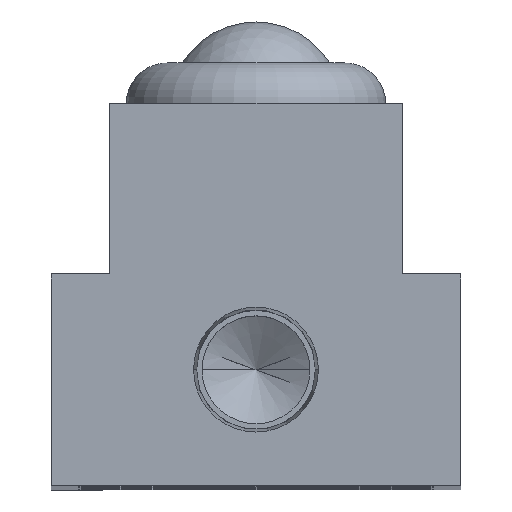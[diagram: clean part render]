
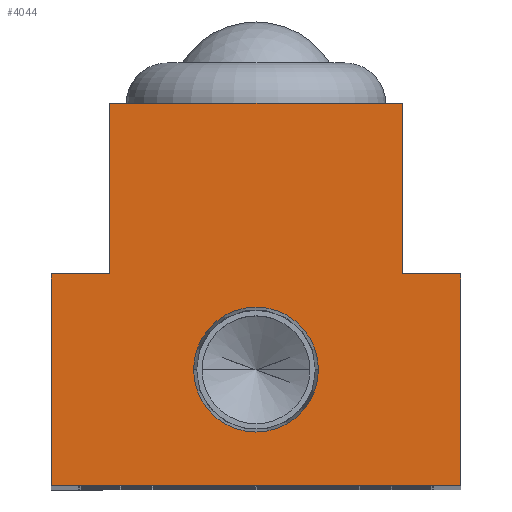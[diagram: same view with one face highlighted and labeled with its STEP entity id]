
A CAD part, top view. The second image highlights one B-rep face of the part: STEP entity #4044.
In plain terms, the highlighted planar face has unit normal (0, 0, 1).
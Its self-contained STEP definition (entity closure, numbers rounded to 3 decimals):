
#16 = DIRECTION ( 'NONE',  ( 1., 0., 0. ) ) ;
#48 = FACE_BOUND ( 'NONE', #275, .T. ) ;
#67 = CARTESIAN_POINT ( 'NONE',  ( -10.7, 28., 0. ) ) ;
#89 = VERTEX_POINT ( 'NONE', #1300 ) ;
#129 = ORIENTED_EDGE ( 'NONE', *, *, #2936, .F. ) ;
#216 = ORIENTED_EDGE ( 'NONE', *, *, #4606, .T. ) ;
#234 = ORIENTED_EDGE ( 'NONE', *, *, #4641, .T. ) ;
#275 = EDGE_LOOP ( 'NONE', ( #4810, #129 ) ) ;
#312 = ORIENTED_EDGE ( 'NONE', *, *, #1543, .T. ) ;
#345 = VECTOR ( 'NONE', #2649, 1000. ) ;
#363 = DIRECTION ( 'NONE',  ( 0., 1., 0. ) ) ;
#367 = ORIENTED_EDGE ( 'NONE', *, *, #1340, .T. ) ;
#370 = AXIS2_PLACEMENT_3D ( 'NONE', #426, #405, #384 ) ;
#384 = DIRECTION ( 'NONE',  ( 1., 0., 0. ) ) ;
#391 = ORIENTED_EDGE ( 'NONE', *, *, #1686, .T. ) ;
#405 = DIRECTION ( 'NONE',  ( 0., 0., 1. ) ) ;
#426 = CARTESIAN_POINT ( 'NONE',  ( 0., 8.5, 0. ) ) ;
#434 = CARTESIAN_POINT ( 'NONE',  ( 10.7, 28., 0. ) ) ;
#451 = CARTESIAN_POINT ( 'NONE',  ( 15., 0., 0. ) ) ;
#530 = VERTEX_POINT ( 'NONE', #2288 ) ;
#680 = CARTESIAN_POINT ( 'NONE',  ( -10.7, 15.5, 0. ) ) ;
#708 = VECTOR ( 'NONE', #2498, 1000. ) ;
#729 = PLANE ( 'NONE',  #843 ) ;
#756 = CARTESIAN_POINT ( 'NONE',  ( 10.7, 15.5, 0. ) ) ;
#792 = DIRECTION ( 'NONE',  ( 0., -1., 0. ) ) ;
#812 = EDGE_CURVE ( 'NONE', #530, #4021, #3473, .T. ) ;
#843 = AXIS2_PLACEMENT_3D ( 'NONE', #2979, #1128, #3731 ) ;
#884 = VERTEX_POINT ( 'NONE', #67 ) ;
#1128 = DIRECTION ( 'NONE',  ( 0., 0., 1. ) ) ;
#1158 = DIRECTION ( 'NONE',  ( 0., -1., 0. ) ) ;
#1168 = ORIENTED_EDGE ( 'NONE', *, *, #4539, .T. ) ;
#1282 = LINE ( 'NONE', #4514, #2164 ) ;
#1300 = CARTESIAN_POINT ( 'NONE',  ( -15., 0., 0. ) ) ;
#1340 = EDGE_CURVE ( 'NONE', #4092, #1678, #2733, .T. ) ;
#1476 = CARTESIAN_POINT ( 'NONE',  ( -4.574, 8.5, 0. ) ) ;
#1543 = EDGE_CURVE ( 'NONE', #2075, #1890, #2790, .T. ) ;
#1639 = LINE ( 'NONE', #2573, #4465 ) ;
#1657 = ORIENTED_EDGE ( 'NONE', *, *, #4570, .T. ) ;
#1678 = VERTEX_POINT ( 'NONE', #434 ) ;
#1686 = EDGE_CURVE ( 'NONE', #89, #2075, #3292, .T. ) ;
#1890 = VERTEX_POINT ( 'NONE', #4344 ) ;
#1949 = EDGE_LOOP ( 'NONE', ( #367, #216, #1657, #3861, #234, #391, #312, #1168 ) ) ;
#1998 = EDGE_CURVE ( 'NONE', #4692, #2141, #3265, .T. ) ;
#2075 = VERTEX_POINT ( 'NONE', #2617 ) ;
#2141 = VERTEX_POINT ( 'NONE', #4103 ) ;
#2164 = VECTOR ( 'NONE', #792, 1000. ) ;
#2288 = CARTESIAN_POINT ( 'NONE',  ( 4.574, 8.5, 0. ) ) ;
#2329 = DIRECTION ( 'NONE',  ( 0., 0., 1. ) ) ;
#2396 = CIRCLE ( 'NONE', #3909, 4.574 ) ;
#2498 = DIRECTION ( 'NONE',  ( 0., 1., 0. ) ) ;
#2573 = CARTESIAN_POINT ( 'NONE',  ( 10.7, 15.5, 0. ) ) ;
#2617 = CARTESIAN_POINT ( 'NONE',  ( 15., 0., 0. ) ) ;
#2649 = DIRECTION ( 'NONE',  ( -1., 0., 0. ) ) ;
#2655 = CARTESIAN_POINT ( 'NONE',  ( 15., 0., 0. ) ) ;
#2733 = LINE ( 'NONE', #3236, #708 ) ;
#2790 = LINE ( 'NONE', #2655, #4864 ) ;
#2936 = EDGE_CURVE ( 'NONE', #4021, #530, #2396, .T. ) ;
#2978 = FACE_OUTER_BOUND ( 'NONE', #1949, .T. ) ;
#2979 = CARTESIAN_POINT ( 'NONE',  ( 0., 0., 0. ) ) ;
#2999 = DIRECTION ( 'NONE',  ( -1., 0., 0. ) ) ;
#3081 = CARTESIAN_POINT ( 'NONE',  ( -10.7, 15.5, 0. ) ) ;
#3236 = CARTESIAN_POINT ( 'NONE',  ( 10.7, 28., 0. ) ) ;
#3258 = LINE ( 'NONE', #4495, #345 ) ;
#3265 = LINE ( 'NONE', #680, #3373 ) ;
#3292 = LINE ( 'NONE', #451, #4155 ) ;
#3308 = DIRECTION ( 'NONE',  ( -1., 0., 0. ) ) ;
#3364 = VECTOR ( 'NONE', #1158, 1000. ) ;
#3373 = VECTOR ( 'NONE', #3308, 1000. ) ;
#3465 = DIRECTION ( 'NONE',  ( 1., 0., 0. ) ) ;
#3473 = CIRCLE ( 'NONE', #370, 4.574 ) ;
#3731 = DIRECTION ( 'NONE',  ( 1., 0., 0. ) ) ;
#3861 = ORIENTED_EDGE ( 'NONE', *, *, #1998, .T. ) ;
#3909 = AXIS2_PLACEMENT_3D ( 'NONE', #4542, #2329, #16 ) ;
#4021 = VERTEX_POINT ( 'NONE', #1476 ) ;
#4044 = ADVANCED_FACE ( 'NONE', ( #48, #2978 ), #729, .T. ) ;
#4092 = VERTEX_POINT ( 'NONE', #756 ) ;
#4102 = CARTESIAN_POINT ( 'NONE',  ( -10.7, 28., 0. ) ) ;
#4103 = CARTESIAN_POINT ( 'NONE',  ( -15., 15.5, 0. ) ) ;
#4155 = VECTOR ( 'NONE', #3465, 1000. ) ;
#4344 = CARTESIAN_POINT ( 'NONE',  ( 15., 15.5, 0. ) ) ;
#4356 = LINE ( 'NONE', #4102, #3364 ) ;
#4465 = VECTOR ( 'NONE', #2999, 1000. ) ;
#4495 = CARTESIAN_POINT ( 'NONE',  ( -10.7, 28., 0. ) ) ;
#4514 = CARTESIAN_POINT ( 'NONE',  ( -15., 0., 0. ) ) ;
#4539 = EDGE_CURVE ( 'NONE', #1890, #4092, #1639, .T. ) ;
#4542 = CARTESIAN_POINT ( 'NONE',  ( 0., 8.5, 0. ) ) ;
#4570 = EDGE_CURVE ( 'NONE', #884, #4692, #4356, .T. ) ;
#4606 = EDGE_CURVE ( 'NONE', #1678, #884, #3258, .T. ) ;
#4641 = EDGE_CURVE ( 'NONE', #2141, #89, #1282, .T. ) ;
#4692 = VERTEX_POINT ( 'NONE', #3081 ) ;
#4810 = ORIENTED_EDGE ( 'NONE', *, *, #812, .F. ) ;
#4864 = VECTOR ( 'NONE', #363, 1000. ) ;
